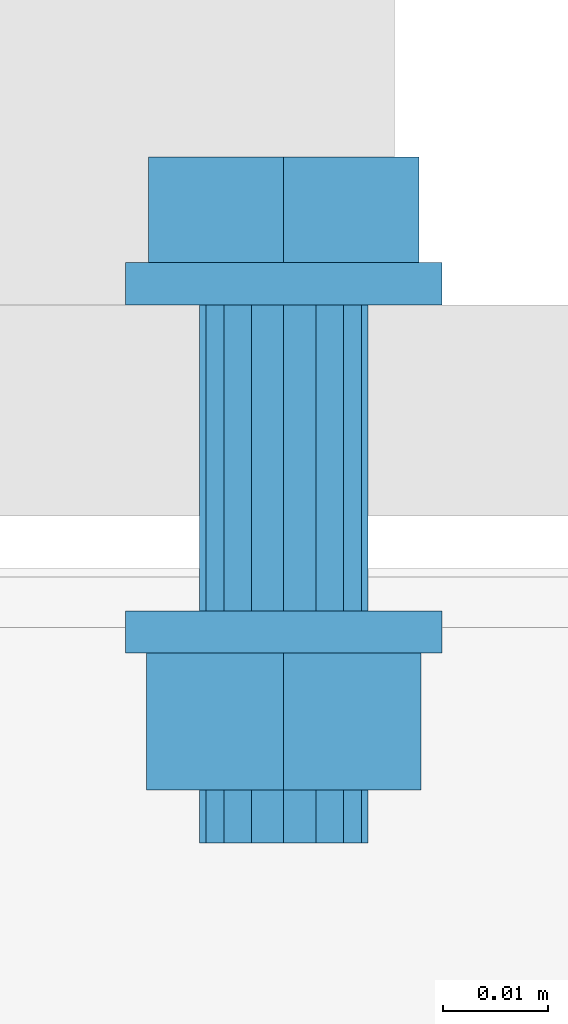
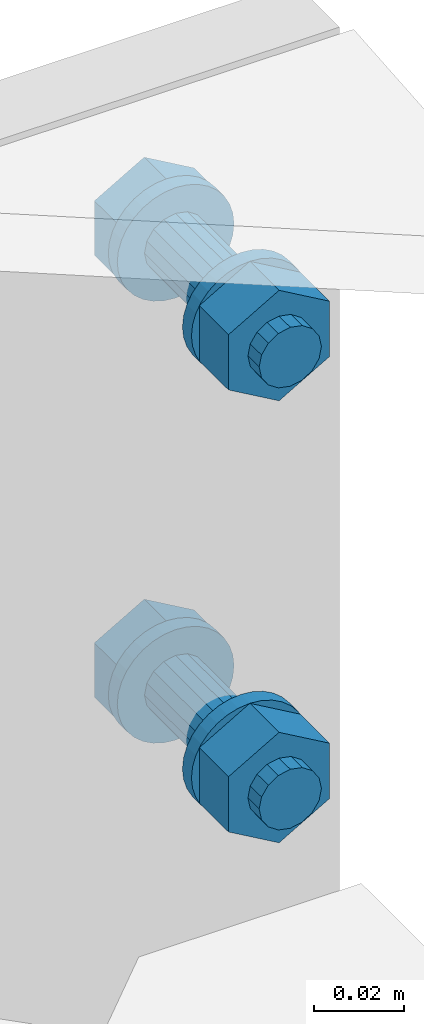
# One storey, part 12 of 21: 2 mechanical fasteners.
"""IFC4X3_ADD2 building model written with IfcOpenShell, lengths in millimetres."""

from ifc_helpers import new_model, entity, si_unit, converted_unit, derived_unit, direction, frame, origin, place, context, project, spatial, faceted_brep, element, save


model = new_model("IFC4X3_ADD2")

# Units and contexts
model_context = context("Model", 3, precision=0.01, world=origin(), true_north=direction((6.123233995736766e-17, 1.0)))
plan_context = context("Plan", 3, precision=0.01, world=origin(), true_north=direction((6.123233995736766e-17, 1.0)))
ifc_project = project(units=[si_unit("LENGTHUNIT", "METRE", prefix="MILLI"), converted_unit("PLANEANGLEUNIT", "DEGREE", entity("IfcPlaneAngleMeasure", 0.017453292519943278), si_unit("PLANEANGLEUNIT", "RADIAN"), dimensions=[0, 0, 0, 0, 0, 0, 0]), si_unit("AREAUNIT", "SQUARE_METRE"), si_unit("VOLUMEUNIT", "CUBIC_METRE"), derived_unit("THERMALTRANSMITTANCEUNIT", [(si_unit("MASSUNIT", "GRAM", prefix="KILO"), 1), (si_unit("THERMODYNAMICTEMPERATUREUNIT", "KELVIN"), -1), (si_unit("TIMEUNIT", "SECOND"), -3)]), derived_unit("USERDEFINED", [(si_unit("MASSUNIT", "GRAM", prefix="KILO"), 1), (si_unit("THERMODYNAMICTEMPERATUREUNIT", "KELVIN"), -1), (si_unit("TIMEUNIT", "SECOND"), -2)]), derived_unit("THERMALRESISTANCEUNIT", [(si_unit("MASSUNIT", "GRAM", prefix="KILO"), -1), (si_unit("TIMEUNIT", "SECOND"), 3), (si_unit("THERMODYNAMICTEMPERATUREUNIT", "KELVIN"), 1)]), si_unit("MASSUNIT", "GRAM", prefix="KILO"), derived_unit("MOMENTOFINERTIAUNIT", [(si_unit("LENGTHUNIT", "METRE"), 4)]), derived_unit("LINEARFORCEUNIT", [(si_unit("MASSUNIT", "GRAM", prefix="KILO"), 1), (si_unit("TIMEUNIT", "SECOND"), -2)]), derived_unit("WARPINGCONSTANTUNIT", [(si_unit("LENGTHUNIT", "METRE"), 6)]), si_unit("PRESSUREUNIT", "PASCAL"), derived_unit("MASSDENSITYUNIT", [(si_unit("MASSUNIT", "GRAM", prefix="KILO"), 1), (si_unit("LENGTHUNIT", "METRE"), -3)]), derived_unit("MODULUSOFELASTICITYUNIT", [(si_unit("MASSUNIT", "GRAM", prefix="KILO"), 1), (si_unit("TIMEUNIT", "SECOND"), -2), (si_unit("LENGTHUNIT", "METRE"), -1)]), derived_unit("THERMALEXPANSIONCOEFFICIENTUNIT", [(si_unit("THERMODYNAMICTEMPERATUREUNIT", "KELVIN"), -1)]), derived_unit("VAPORPERMEABILITYUNIT", [(si_unit("LENGTHUNIT", "METRE"), -1), (si_unit("TIMEUNIT", "SECOND"), 1)]), derived_unit("USERDEFINED", [(si_unit("MASSUNIT", "GRAM", prefix="KILO"), 1), (si_unit("TIMEUNIT", "SECOND"), -3), (si_unit("LENGTHUNIT", "METRE"), 3), (si_unit("ELECTRICCURRENTUNIT", "AMPERE"), -2)]), derived_unit("SPECIFICHEATCAPACITYUNIT", [(si_unit("THERMODYNAMICTEMPERATUREUNIT", "KELVIN"), -1), (si_unit("TIMEUNIT", "SECOND"), -2), (si_unit("LENGTHUNIT", "METRE"), 2)]), derived_unit("THERMALCONDUCTANCEUNIT", [(si_unit("MASSUNIT", "GRAM", prefix="KILO"), 1), (si_unit("THERMODYNAMICTEMPERATUREUNIT", "KELVIN"), -1), (si_unit("TIMEUNIT", "SECOND"), -3), (si_unit("LENGTHUNIT", "METRE"), 1)])], contexts=[model_context, plan_context])

# Site, building, storey
site_placement = place(None, origin())
site = spatial("IfcSite", under=ifc_project, at=site_placement, Name="Default", CompositionType="ELEMENT")
building_placement = place(site_placement, origin())
building = spatial("IfcBuilding", under=site, at=building_placement, Name="Complex structure", CompositionType="ELEMENT")
storey_placement = place(building_placement, frame((0.0, 0.0, 3000.0)))
storey = spatial("IfcBuildingStorey", under=building, at=storey_placement, Name="Level 01", CompositionType="ELEMENT", Elevation=3000.0)

# Mechanical fasteners
mechanical_fastener_1_placement = place(storey_placement, frame((0.0, 0.0, -3000.0)))
element("IfcMechanicalFastener", 1, at=mechanical_fastener_1_placement, inside=storey, ObjectType="Bolt#3", NominalDiameter=16.0, NominalLength=55.0, context=model_context, shape_type="Brep", body=[
    faceted_brep([(-9081.026350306, -1182.866703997, 3943.0), (-9081.026350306, -1186.866703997, 3943.0), (-9081.3145711, -1186.866703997, 3940.07364517), (-9081.3145711, -1182.866703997, 3940.07364517), (-9082.168157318, -1186.866703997, 3937.259748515), (-9082.168157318, -1182.866703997, 3937.259748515), (-9083.554306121, -1186.866703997, 3934.666446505), (-9083.554306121, -1182.866703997, 3934.666446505), (-9085.419748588, -1186.866703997, 3932.393398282), (-9085.419748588, -1182.866703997, 3932.393398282), (-9087.692796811, -1186.866703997, 3930.527955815), (-9087.692796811, -1182.866703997, 3930.527955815), (-9090.28609882, -1186.866703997, 3929.141807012), (-9090.28609882, -1182.866703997, 3929.141807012), (-9093.099995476, -1186.866703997, 3928.288220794), (-9093.099995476, -1182.866703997, 3928.288220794), (-9096.026350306, -1186.866703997, 3928.0), (-9096.026350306, -1182.866703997, 3928.0), (-9098.952705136, -1186.866703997, 3928.288220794), (-9098.952705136, -1182.866703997, 3928.288220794), (-9101.766601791, -1186.866703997, 3929.141807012), (-9101.766601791, -1182.866703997, 3929.141807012), (-9104.359903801, -1186.866703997, 3930.527955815), (-9104.359903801, -1182.866703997, 3930.527955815), (-9106.632952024, -1186.866703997, 3932.393398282), (-9106.632952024, -1182.866703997, 3932.393398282), (-9108.49839449, -1186.866703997, 3934.666446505), (-9108.49839449, -1182.866703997, 3934.666446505), (-9109.884543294, -1186.866703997, 3937.259748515), (-9109.884543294, -1182.866703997, 3937.259748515), (-9110.738129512, -1186.866703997, 3940.07364517), (-9110.738129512, -1182.866703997, 3940.07364517), (-9111.026350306, -1186.866703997, 3943.0), (-9111.026350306, -1182.866703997, 3943.0), (-9110.738129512, -1186.866703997, 3945.92635483), (-9110.738129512, -1182.866703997, 3945.92635483), (-9109.884543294, -1186.866703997, 3948.740251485), (-9109.884543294, -1182.866703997, 3948.740251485), (-9108.49839449, -1186.866703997, 3951.333553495), (-9108.49839449, -1182.866703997, 3951.333553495), (-9106.632952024, -1186.866703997, 3953.606601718), (-9106.632952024, -1182.866703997, 3953.606601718), (-9104.359903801, -1186.866703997, 3955.472044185), (-9104.359903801, -1182.866703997, 3955.472044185), (-9101.766601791, -1186.866703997, 3956.858192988), (-9101.766601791, -1182.866703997, 3956.858192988), (-9098.952705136, -1186.866703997, 3957.711779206), (-9098.952705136, -1182.866703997, 3957.711779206), (-9096.026350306, -1186.866703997, 3958.0), (-9096.026350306, -1182.866703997, 3958.0), (-9093.099995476, -1186.866703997, 3957.711779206), (-9093.099995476, -1182.866703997, 3957.711779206), (-9090.28609882, -1186.866703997, 3956.858192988), (-9090.28609882, -1182.866703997, 3956.858192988), (-9087.692796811, -1186.866703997, 3955.472044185), (-9087.692796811, -1182.866703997, 3955.472044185), (-9085.419748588, -1186.866703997, 3953.606601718), (-9085.419748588, -1182.866703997, 3953.606601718), (-9083.554306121, -1186.866703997, 3951.333553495), (-9083.554306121, -1182.866703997, 3951.333553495), (-9082.168157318, -1186.866703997, 3948.740251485), (-9082.168157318, -1182.866703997, 3948.740251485), (-9081.3145711, -1186.866703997, 3945.92635483), (-9081.3145711, -1182.866703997, 3945.92635483)], [[[0, 1, 2, 3]], [[3, 2, 4, 5]], [[5, 4, 6, 7]], [[7, 6, 8, 9]], [[9, 8, 10, 11]], [[11, 10, 12, 13]], [[13, 12, 14, 15]], [[15, 14, 16, 17]], [[17, 16, 18, 19]], [[19, 18, 20, 21]], [[21, 20, 22, 23]], [[23, 22, 24, 25]], [[25, 24, 26, 27]], [[27, 26, 28, 29]], [[29, 28, 30, 31]], [[31, 30, 32, 33]], [[33, 32, 34, 35]], [[35, 34, 36, 37]], [[37, 36, 38, 39]], [[39, 38, 40, 41]], [[41, 40, 42, 43]], [[43, 42, 44, 45]], [[45, 44, 46, 47]], [[47, 46, 48, 49]], [[49, 48, 50, 51]], [[51, 50, 52, 53]], [[53, 52, 54, 55]], [[55, 54, 56, 57]], [[57, 56, 58, 59]], [[59, 58, 60, 61]], [[61, 60, 62, 63]], [[63, 62, 1, 0]], [[0, 3, 5, 7, 9, 11, 13, 15, 17, 19, 21, 23, 25, 27, 29, 31, 33, 35, 37, 39, 41, 43, 45, 47, 49, 51, 53, 55, 57, 59, 61, 63]], [[1, 62, 60, 58, 56, 54, 52, 50, 48, 46, 44, 42, 40, 38, 36, 34, 32, 30, 28, 26, 24, 22, 20, 18, 16, 14, 12, 10, 8, 6, 4, 2]]]),
    faceted_brep([(-9108.826205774, -1182.866703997, 3935.61), (-9108.826205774, -1172.866703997, 3935.61), (-9096.026350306, -1172.866703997, 3928.22), (-9096.026350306, -1182.866703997, 3928.22), (-9083.226494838, -1172.866703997, 3935.61), (-9083.226494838, -1182.866703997, 3935.61), (-9083.226494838, -1172.866703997, 3950.39), (-9083.226494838, -1182.866703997, 3950.39), (-9096.026350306, -1172.866703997, 3957.78), (-9096.026350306, -1182.866703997, 3957.78), (-9108.826205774, -1172.866703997, 3950.39), (-9108.826205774, -1182.866703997, 3950.39)], [[[0, 1, 2, 3]], [[3, 2, 4, 5]], [[5, 4, 6, 7]], [[7, 6, 8, 9]], [[9, 8, 10, 11]], [[11, 10, 1, 0]], [[4, 2, 1, 10, 8, 6]], [[0, 3, 5, 7, 9, 11]]]),
    faceted_brep([(-9088.026350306, -1186.866703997, 3943.0), (-9088.026350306, -1215.866703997, 3943.0), (-9088.635314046, -1215.866703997, 3939.938532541), (-9088.635314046, -1186.866703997, 3939.938532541), (-9090.369496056, -1215.866703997, 3937.343145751), (-9090.369496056, -1186.866703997, 3937.343145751), (-9092.964882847, -1215.866703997, 3935.60896374), (-9092.964882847, -1186.866703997, 3935.60896374), (-9096.026350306, -1215.866703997, 3935.0), (-9096.026350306, -1186.866703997, 3935.0), (-9099.087817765, -1215.866703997, 3935.60896374), (-9099.087817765, -1186.866703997, 3935.60896374), (-9101.683204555, -1215.866703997, 3937.343145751), (-9101.683204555, -1186.866703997, 3937.343145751), (-9103.417386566, -1215.866703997, 3939.938532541), (-9103.417386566, -1186.866703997, 3939.938532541), (-9104.026350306, -1215.866703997, 3943.0), (-9104.026350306, -1186.866703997, 3943.0), (-9103.417386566, -1215.866703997, 3946.061467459), (-9103.417386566, -1186.866703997, 3946.061467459), (-9101.683204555, -1215.866703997, 3948.656854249), (-9101.683204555, -1186.866703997, 3948.656854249), (-9099.087817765, -1215.866703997, 3950.39103626), (-9099.087817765, -1186.866703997, 3950.39103626), (-9096.026350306, -1215.866703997, 3951.0), (-9096.026350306, -1186.866703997, 3951.0), (-9092.964882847, -1215.866703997, 3950.39103626), (-9092.964882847, -1186.866703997, 3950.39103626), (-9090.369496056, -1215.866703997, 3948.656854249), (-9090.369496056, -1186.866703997, 3948.656854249), (-9088.635314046, -1215.866703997, 3946.061467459), (-9088.635314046, -1186.866703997, 3946.061467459)], [[[0, 1, 2, 3]], [[3, 2, 4, 5]], [[5, 4, 6, 7]], [[7, 6, 8, 9]], [[9, 8, 10, 11]], [[11, 10, 12, 13]], [[13, 12, 14, 15]], [[15, 14, 16, 17]], [[17, 16, 18, 19]], [[19, 18, 20, 21]], [[21, 20, 22, 23]], [[23, 22, 24, 25]], [[25, 24, 26, 27]], [[27, 26, 28, 29]], [[29, 28, 30, 31]], [[31, 30, 1, 0]], [[0, 3, 5, 7, 9, 11, 13, 15, 17, 19, 21, 23, 25, 27, 29, 31]], [[1, 30, 28, 26, 24, 22, 20, 18, 16, 14, 12, 10, 8, 6, 4, 2]]]),
    faceted_brep([(-9081.026350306, -1215.866703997, 3943.0), (-9081.026350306, -1219.866703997, 3943.0), (-9081.3145711, -1219.866703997, 3940.07364517), (-9081.3145711, -1215.866703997, 3940.07364517), (-9082.168157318, -1219.866703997, 3937.259748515), (-9082.168157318, -1215.866703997, 3937.259748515), (-9083.554306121, -1219.866703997, 3934.666446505), (-9083.554306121, -1215.866703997, 3934.666446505), (-9085.419748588, -1219.866703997, 3932.393398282), (-9085.419748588, -1215.866703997, 3932.393398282), (-9087.692796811, -1219.866703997, 3930.527955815), (-9087.692796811, -1215.866703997, 3930.527955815), (-9090.28609882, -1219.866703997, 3929.141807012), (-9090.28609882, -1215.866703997, 3929.141807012), (-9093.099995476, -1219.866703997, 3928.288220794), (-9093.099995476, -1215.866703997, 3928.288220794), (-9096.026350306, -1219.866703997, 3928.0), (-9096.026350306, -1215.866703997, 3928.0), (-9098.952705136, -1219.866703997, 3928.288220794), (-9098.952705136, -1215.866703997, 3928.288220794), (-9101.766601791, -1219.866703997, 3929.141807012), (-9101.766601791, -1215.866703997, 3929.141807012), (-9104.359903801, -1219.866703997, 3930.527955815), (-9104.359903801, -1215.866703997, 3930.527955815), (-9106.632952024, -1219.866703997, 3932.393398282), (-9106.632952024, -1215.866703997, 3932.393398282), (-9108.49839449, -1219.866703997, 3934.666446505), (-9108.49839449, -1215.866703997, 3934.666446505), (-9109.884543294, -1219.866703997, 3937.259748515), (-9109.884543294, -1215.866703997, 3937.259748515), (-9110.738129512, -1219.866703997, 3940.07364517), (-9110.738129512, -1215.866703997, 3940.07364517), (-9111.026350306, -1219.866703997, 3943.0), (-9111.026350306, -1215.866703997, 3943.0), (-9110.738129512, -1219.866703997, 3945.92635483), (-9110.738129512, -1215.866703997, 3945.92635483), (-9109.884543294, -1219.866703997, 3948.740251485), (-9109.884543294, -1215.866703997, 3948.740251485), (-9108.49839449, -1219.866703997, 3951.333553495), (-9108.49839449, -1215.866703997, 3951.333553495), (-9106.632952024, -1219.866703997, 3953.606601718), (-9106.632952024, -1215.866703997, 3953.606601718), (-9104.359903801, -1219.866703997, 3955.472044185), (-9104.359903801, -1215.866703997, 3955.472044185), (-9101.766601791, -1219.866703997, 3956.858192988), (-9101.766601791, -1215.866703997, 3956.858192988), (-9098.952705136, -1219.866703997, 3957.711779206), (-9098.952705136, -1215.866703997, 3957.711779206), (-9096.026350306, -1219.866703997, 3958.0), (-9096.026350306, -1215.866703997, 3958.0), (-9093.099995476, -1219.866703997, 3957.711779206), (-9093.099995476, -1215.866703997, 3957.711779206), (-9090.28609882, -1219.866703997, 3956.858192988), (-9090.28609882, -1215.866703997, 3956.858192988), (-9087.692796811, -1219.866703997, 3955.472044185), (-9087.692796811, -1215.866703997, 3955.472044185), (-9085.419748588, -1219.866703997, 3953.606601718), (-9085.419748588, -1215.866703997, 3953.606601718), (-9083.554306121, -1219.866703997, 3951.333553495), (-9083.554306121, -1215.866703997, 3951.333553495), (-9082.168157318, -1219.866703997, 3948.740251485), (-9082.168157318, -1215.866703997, 3948.740251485), (-9081.3145711, -1219.866703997, 3945.92635483), (-9081.3145711, -1215.866703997, 3945.92635483)], [[[0, 1, 2, 3]], [[3, 2, 4, 5]], [[5, 4, 6, 7]], [[7, 6, 8, 9]], [[9, 8, 10, 11]], [[11, 10, 12, 13]], [[13, 12, 14, 15]], [[15, 14, 16, 17]], [[17, 16, 18, 19]], [[19, 18, 20, 21]], [[21, 20, 22, 23]], [[23, 22, 24, 25]], [[25, 24, 26, 27]], [[27, 26, 28, 29]], [[29, 28, 30, 31]], [[31, 30, 32, 33]], [[33, 32, 34, 35]], [[35, 34, 36, 37]], [[37, 36, 38, 39]], [[39, 38, 40, 41]], [[41, 40, 42, 43]], [[43, 42, 44, 45]], [[45, 44, 46, 47]], [[47, 46, 48, 49]], [[49, 48, 50, 51]], [[51, 50, 52, 53]], [[53, 52, 54, 55]], [[55, 54, 56, 57]], [[57, 56, 58, 59]], [[59, 58, 60, 61]], [[61, 60, 62, 63]], [[63, 62, 1, 0]], [[0, 3, 5, 7, 9, 11, 13, 15, 17, 19, 21, 23, 25, 27, 29, 31, 33, 35, 37, 39, 41, 43, 45, 47, 49, 51, 53, 55, 57, 59, 61, 63]], [[1, 62, 60, 58, 56, 54, 52, 50, 48, 46, 44, 42, 40, 38, 36, 34, 32, 30, 28, 26, 24, 22, 20, 18, 16, 14, 12, 10, 8, 6, 4, 2]]]),
    faceted_brep([(-9109.016731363, -1232.866703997, 3935.5), (-9109.016731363, -1219.866703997, 3935.5), (-9096.026350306, -1219.866703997, 3928.0), (-9096.026350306, -1232.866703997, 3928.0), (-9083.035969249, -1219.866703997, 3935.5), (-9083.035969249, -1232.866703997, 3935.5), (-9083.035969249, -1219.866703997, 3950.5), (-9083.035969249, -1232.866703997, 3950.5), (-9096.026350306, -1219.866703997, 3958.0), (-9096.026350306, -1232.866703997, 3958.0), (-9109.016731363, -1219.866703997, 3950.5), (-9109.016731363, -1232.866703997, 3950.5)], [[[0, 1, 2, 3]], [[3, 2, 4, 5]], [[5, 4, 6, 7]], [[7, 6, 8, 9]], [[9, 8, 10, 11]], [[11, 10, 1, 0]], [[4, 2, 1, 10, 8, 6]], [[0, 3, 5, 7, 9, 11]]]),
    faceted_brep([(-9088.026350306, -1232.866703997, 3943.0), (-9088.026350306, -1237.866703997, 3943.0), (-9088.635314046, -1237.866703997, 3939.938532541), (-9088.635314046, -1232.866703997, 3939.938532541), (-9090.369496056, -1237.866703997, 3937.343145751), (-9090.369496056, -1232.866703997, 3937.343145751), (-9092.964882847, -1237.866703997, 3935.60896374), (-9092.964882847, -1232.866703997, 3935.60896374), (-9096.026350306, -1237.866703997, 3935.0), (-9096.026350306, -1232.866703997, 3935.0), (-9099.087817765, -1237.866703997, 3935.60896374), (-9099.087817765, -1232.866703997, 3935.60896374), (-9101.683204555, -1237.866703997, 3937.343145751), (-9101.683204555, -1232.866703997, 3937.343145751), (-9103.417386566, -1237.866703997, 3939.938532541), (-9103.417386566, -1232.866703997, 3939.938532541), (-9104.026350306, -1237.866703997, 3943.0), (-9104.026350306, -1232.866703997, 3943.0), (-9103.417386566, -1237.866703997, 3946.061467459), (-9103.417386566, -1232.866703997, 3946.061467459), (-9101.683204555, -1237.866703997, 3948.656854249), (-9101.683204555, -1232.866703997, 3948.656854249), (-9099.087817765, -1237.866703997, 3950.39103626), (-9099.087817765, -1232.866703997, 3950.39103626), (-9096.026350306, -1237.866703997, 3951.0), (-9096.026350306, -1232.866703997, 3951.0), (-9092.964882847, -1237.866703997, 3950.39103626), (-9092.964882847, -1232.866703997, 3950.39103626), (-9090.369496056, -1237.866703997, 3948.656854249), (-9090.369496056, -1232.866703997, 3948.656854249), (-9088.635314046, -1237.866703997, 3946.061467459), (-9088.635314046, -1232.866703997, 3946.061467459)], [[[0, 1, 2, 3]], [[3, 2, 4, 5]], [[5, 4, 6, 7]], [[7, 6, 8, 9]], [[9, 8, 10, 11]], [[11, 10, 12, 13]], [[13, 12, 14, 15]], [[15, 14, 16, 17]], [[17, 16, 18, 19]], [[19, 18, 20, 21]], [[21, 20, 22, 23]], [[23, 22, 24, 25]], [[25, 24, 26, 27]], [[27, 26, 28, 29]], [[29, 28, 30, 31]], [[31, 30, 1, 0]], [[0, 3, 5, 7, 9, 11, 13, 15, 17, 19, 21, 23, 25, 27, 29, 31]], [[1, 30, 28, 26, 24, 22, 20, 18, 16, 14, 12, 10, 8, 6, 4, 2]]]),
])
mechanical_fastener_2_placement = place(storey_placement, frame((0.0, 0.0, -3000.0)))
element("IfcMechanicalFastener", 2, at=mechanical_fastener_2_placement, inside=storey, ObjectType="Bolt#4", NominalDiameter=16.0, NominalLength=55.0, context=model_context, shape_type="Brep", body=[
    faceted_brep([(-9081.026350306, -1182.866703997, 3823.0), (-9081.026350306, -1186.866703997, 3823.0), (-9081.3145711, -1186.866703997, 3820.07364517), (-9081.3145711, -1182.866703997, 3820.07364517), (-9082.168157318, -1186.866703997, 3817.259748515), (-9082.168157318, -1182.866703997, 3817.259748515), (-9083.554306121, -1186.866703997, 3814.666446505), (-9083.554306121, -1182.866703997, 3814.666446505), (-9085.419748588, -1186.866703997, 3812.393398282), (-9085.419748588, -1182.866703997, 3812.393398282), (-9087.692796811, -1186.866703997, 3810.527955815), (-9087.692796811, -1182.866703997, 3810.527955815), (-9090.28609882, -1186.866703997, 3809.141807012), (-9090.28609882, -1182.866703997, 3809.141807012), (-9093.099995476, -1186.866703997, 3808.288220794), (-9093.099995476, -1182.866703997, 3808.288220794), (-9096.026350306, -1186.866703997, 3808.0), (-9096.026350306, -1182.866703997, 3808.0), (-9098.952705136, -1186.866703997, 3808.288220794), (-9098.952705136, -1182.866703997, 3808.288220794), (-9101.766601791, -1186.866703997, 3809.141807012), (-9101.766601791, -1182.866703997, 3809.141807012), (-9104.359903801, -1186.866703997, 3810.527955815), (-9104.359903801, -1182.866703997, 3810.527955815), (-9106.632952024, -1186.866703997, 3812.393398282), (-9106.632952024, -1182.866703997, 3812.393398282), (-9108.49839449, -1186.866703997, 3814.666446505), (-9108.49839449, -1182.866703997, 3814.666446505), (-9109.884543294, -1186.866703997, 3817.259748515), (-9109.884543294, -1182.866703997, 3817.259748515), (-9110.738129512, -1186.866703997, 3820.07364517), (-9110.738129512, -1182.866703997, 3820.07364517), (-9111.026350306, -1186.866703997, 3823.0), (-9111.026350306, -1182.866703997, 3823.0), (-9110.738129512, -1186.866703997, 3825.92635483), (-9110.738129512, -1182.866703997, 3825.92635483), (-9109.884543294, -1186.866703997, 3828.740251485), (-9109.884543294, -1182.866703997, 3828.740251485), (-9108.49839449, -1186.866703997, 3831.333553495), (-9108.49839449, -1182.866703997, 3831.333553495), (-9106.632952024, -1186.866703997, 3833.606601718), (-9106.632952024, -1182.866703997, 3833.606601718), (-9104.359903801, -1186.866703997, 3835.472044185), (-9104.359903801, -1182.866703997, 3835.472044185), (-9101.766601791, -1186.866703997, 3836.858192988), (-9101.766601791, -1182.866703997, 3836.858192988), (-9098.952705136, -1186.866703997, 3837.711779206), (-9098.952705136, -1182.866703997, 3837.711779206), (-9096.026350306, -1186.866703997, 3838.0), (-9096.026350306, -1182.866703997, 3838.0), (-9093.099995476, -1186.866703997, 3837.711779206), (-9093.099995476, -1182.866703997, 3837.711779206), (-9090.28609882, -1186.866703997, 3836.858192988), (-9090.28609882, -1182.866703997, 3836.858192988), (-9087.692796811, -1186.866703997, 3835.472044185), (-9087.692796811, -1182.866703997, 3835.472044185), (-9085.419748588, -1186.866703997, 3833.606601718), (-9085.419748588, -1182.866703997, 3833.606601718), (-9083.554306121, -1186.866703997, 3831.333553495), (-9083.554306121, -1182.866703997, 3831.333553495), (-9082.168157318, -1186.866703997, 3828.740251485), (-9082.168157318, -1182.866703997, 3828.740251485), (-9081.3145711, -1186.866703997, 3825.92635483), (-9081.3145711, -1182.866703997, 3825.92635483)], [[[0, 1, 2, 3]], [[3, 2, 4, 5]], [[5, 4, 6, 7]], [[7, 6, 8, 9]], [[9, 8, 10, 11]], [[11, 10, 12, 13]], [[13, 12, 14, 15]], [[15, 14, 16, 17]], [[17, 16, 18, 19]], [[19, 18, 20, 21]], [[21, 20, 22, 23]], [[23, 22, 24, 25]], [[25, 24, 26, 27]], [[27, 26, 28, 29]], [[29, 28, 30, 31]], [[31, 30, 32, 33]], [[33, 32, 34, 35]], [[35, 34, 36, 37]], [[37, 36, 38, 39]], [[39, 38, 40, 41]], [[41, 40, 42, 43]], [[43, 42, 44, 45]], [[45, 44, 46, 47]], [[47, 46, 48, 49]], [[49, 48, 50, 51]], [[51, 50, 52, 53]], [[53, 52, 54, 55]], [[55, 54, 56, 57]], [[57, 56, 58, 59]], [[59, 58, 60, 61]], [[61, 60, 62, 63]], [[63, 62, 1, 0]], [[0, 3, 5, 7, 9, 11, 13, 15, 17, 19, 21, 23, 25, 27, 29, 31, 33, 35, 37, 39, 41, 43, 45, 47, 49, 51, 53, 55, 57, 59, 61, 63]], [[1, 62, 60, 58, 56, 54, 52, 50, 48, 46, 44, 42, 40, 38, 36, 34, 32, 30, 28, 26, 24, 22, 20, 18, 16, 14, 12, 10, 8, 6, 4, 2]]]),
    faceted_brep([(-9108.826205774, -1182.866703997, 3815.61), (-9108.826205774, -1172.866703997, 3815.61), (-9096.026350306, -1172.866703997, 3808.22), (-9096.026350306, -1182.866703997, 3808.22), (-9083.226494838, -1172.866703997, 3815.61), (-9083.226494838, -1182.866703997, 3815.61), (-9083.226494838, -1172.866703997, 3830.39), (-9083.226494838, -1182.866703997, 3830.39), (-9096.026350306, -1172.866703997, 3837.78), (-9096.026350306, -1182.866703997, 3837.78), (-9108.826205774, -1172.866703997, 3830.39), (-9108.826205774, -1182.866703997, 3830.39)], [[[0, 1, 2, 3]], [[3, 2, 4, 5]], [[5, 4, 6, 7]], [[7, 6, 8, 9]], [[9, 8, 10, 11]], [[11, 10, 1, 0]], [[4, 2, 1, 10, 8, 6]], [[0, 3, 5, 7, 9, 11]]]),
    faceted_brep([(-9088.026350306, -1186.866703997, 3823.0), (-9088.026350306, -1215.866703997, 3823.0), (-9088.635314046, -1215.866703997, 3819.938532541), (-9088.635314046, -1186.866703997, 3819.938532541), (-9090.369496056, -1215.866703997, 3817.343145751), (-9090.369496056, -1186.866703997, 3817.343145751), (-9092.964882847, -1215.866703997, 3815.60896374), (-9092.964882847, -1186.866703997, 3815.60896374), (-9096.026350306, -1215.866703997, 3815.0), (-9096.026350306, -1186.866703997, 3815.0), (-9099.087817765, -1215.866703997, 3815.60896374), (-9099.087817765, -1186.866703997, 3815.60896374), (-9101.683204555, -1215.866703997, 3817.343145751), (-9101.683204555, -1186.866703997, 3817.343145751), (-9103.417386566, -1215.866703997, 3819.938532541), (-9103.417386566, -1186.866703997, 3819.938532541), (-9104.026350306, -1215.866703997, 3823.0), (-9104.026350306, -1186.866703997, 3823.0), (-9103.417386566, -1215.866703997, 3826.061467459), (-9103.417386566, -1186.866703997, 3826.061467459), (-9101.683204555, -1215.866703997, 3828.656854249), (-9101.683204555, -1186.866703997, 3828.656854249), (-9099.087817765, -1215.866703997, 3830.39103626), (-9099.087817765, -1186.866703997, 3830.39103626), (-9096.026350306, -1215.866703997, 3831.0), (-9096.026350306, -1186.866703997, 3831.0), (-9092.964882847, -1215.866703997, 3830.39103626), (-9092.964882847, -1186.866703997, 3830.39103626), (-9090.369496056, -1215.866703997, 3828.656854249), (-9090.369496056, -1186.866703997, 3828.656854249), (-9088.635314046, -1215.866703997, 3826.061467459), (-9088.635314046, -1186.866703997, 3826.061467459)], [[[0, 1, 2, 3]], [[3, 2, 4, 5]], [[5, 4, 6, 7]], [[7, 6, 8, 9]], [[9, 8, 10, 11]], [[11, 10, 12, 13]], [[13, 12, 14, 15]], [[15, 14, 16, 17]], [[17, 16, 18, 19]], [[19, 18, 20, 21]], [[21, 20, 22, 23]], [[23, 22, 24, 25]], [[25, 24, 26, 27]], [[27, 26, 28, 29]], [[29, 28, 30, 31]], [[31, 30, 1, 0]], [[0, 3, 5, 7, 9, 11, 13, 15, 17, 19, 21, 23, 25, 27, 29, 31]], [[1, 30, 28, 26, 24, 22, 20, 18, 16, 14, 12, 10, 8, 6, 4, 2]]]),
    faceted_brep([(-9081.026350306, -1215.866703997, 3823.0), (-9081.026350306, -1219.866703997, 3823.0), (-9081.3145711, -1219.866703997, 3820.07364517), (-9081.3145711, -1215.866703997, 3820.07364517), (-9082.168157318, -1219.866703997, 3817.259748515), (-9082.168157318, -1215.866703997, 3817.259748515), (-9083.554306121, -1219.866703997, 3814.666446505), (-9083.554306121, -1215.866703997, 3814.666446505), (-9085.419748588, -1219.866703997, 3812.393398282), (-9085.419748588, -1215.866703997, 3812.393398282), (-9087.692796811, -1219.866703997, 3810.527955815), (-9087.692796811, -1215.866703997, 3810.527955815), (-9090.28609882, -1219.866703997, 3809.141807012), (-9090.28609882, -1215.866703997, 3809.141807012), (-9093.099995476, -1219.866703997, 3808.288220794), (-9093.099995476, -1215.866703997, 3808.288220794), (-9096.026350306, -1219.866703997, 3808.0), (-9096.026350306, -1215.866703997, 3808.0), (-9098.952705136, -1219.866703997, 3808.288220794), (-9098.952705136, -1215.866703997, 3808.288220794), (-9101.766601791, -1219.866703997, 3809.141807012), (-9101.766601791, -1215.866703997, 3809.141807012), (-9104.359903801, -1219.866703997, 3810.527955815), (-9104.359903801, -1215.866703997, 3810.527955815), (-9106.632952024, -1219.866703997, 3812.393398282), (-9106.632952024, -1215.866703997, 3812.393398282), (-9108.49839449, -1219.866703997, 3814.666446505), (-9108.49839449, -1215.866703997, 3814.666446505), (-9109.884543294, -1219.866703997, 3817.259748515), (-9109.884543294, -1215.866703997, 3817.259748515), (-9110.738129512, -1219.866703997, 3820.07364517), (-9110.738129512, -1215.866703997, 3820.07364517), (-9111.026350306, -1219.866703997, 3823.0), (-9111.026350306, -1215.866703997, 3823.0), (-9110.738129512, -1219.866703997, 3825.92635483), (-9110.738129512, -1215.866703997, 3825.92635483), (-9109.884543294, -1219.866703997, 3828.740251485), (-9109.884543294, -1215.866703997, 3828.740251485), (-9108.49839449, -1219.866703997, 3831.333553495), (-9108.49839449, -1215.866703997, 3831.333553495), (-9106.632952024, -1219.866703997, 3833.606601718), (-9106.632952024, -1215.866703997, 3833.606601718), (-9104.359903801, -1219.866703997, 3835.472044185), (-9104.359903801, -1215.866703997, 3835.472044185), (-9101.766601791, -1219.866703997, 3836.858192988), (-9101.766601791, -1215.866703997, 3836.858192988), (-9098.952705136, -1219.866703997, 3837.711779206), (-9098.952705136, -1215.866703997, 3837.711779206), (-9096.026350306, -1219.866703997, 3838.0), (-9096.026350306, -1215.866703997, 3838.0), (-9093.099995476, -1219.866703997, 3837.711779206), (-9093.099995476, -1215.866703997, 3837.711779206), (-9090.28609882, -1219.866703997, 3836.858192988), (-9090.28609882, -1215.866703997, 3836.858192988), (-9087.692796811, -1219.866703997, 3835.472044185), (-9087.692796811, -1215.866703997, 3835.472044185), (-9085.419748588, -1219.866703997, 3833.606601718), (-9085.419748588, -1215.866703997, 3833.606601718), (-9083.554306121, -1219.866703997, 3831.333553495), (-9083.554306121, -1215.866703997, 3831.333553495), (-9082.168157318, -1219.866703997, 3828.740251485), (-9082.168157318, -1215.866703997, 3828.740251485), (-9081.3145711, -1219.866703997, 3825.92635483), (-9081.3145711, -1215.866703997, 3825.92635483)], [[[0, 1, 2, 3]], [[3, 2, 4, 5]], [[5, 4, 6, 7]], [[7, 6, 8, 9]], [[9, 8, 10, 11]], [[11, 10, 12, 13]], [[13, 12, 14, 15]], [[15, 14, 16, 17]], [[17, 16, 18, 19]], [[19, 18, 20, 21]], [[21, 20, 22, 23]], [[23, 22, 24, 25]], [[25, 24, 26, 27]], [[27, 26, 28, 29]], [[29, 28, 30, 31]], [[31, 30, 32, 33]], [[33, 32, 34, 35]], [[35, 34, 36, 37]], [[37, 36, 38, 39]], [[39, 38, 40, 41]], [[41, 40, 42, 43]], [[43, 42, 44, 45]], [[45, 44, 46, 47]], [[47, 46, 48, 49]], [[49, 48, 50, 51]], [[51, 50, 52, 53]], [[53, 52, 54, 55]], [[55, 54, 56, 57]], [[57, 56, 58, 59]], [[59, 58, 60, 61]], [[61, 60, 62, 63]], [[63, 62, 1, 0]], [[0, 3, 5, 7, 9, 11, 13, 15, 17, 19, 21, 23, 25, 27, 29, 31, 33, 35, 37, 39, 41, 43, 45, 47, 49, 51, 53, 55, 57, 59, 61, 63]], [[1, 62, 60, 58, 56, 54, 52, 50, 48, 46, 44, 42, 40, 38, 36, 34, 32, 30, 28, 26, 24, 22, 20, 18, 16, 14, 12, 10, 8, 6, 4, 2]]]),
    faceted_brep([(-9109.016731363, -1232.866703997, 3815.5), (-9109.016731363, -1219.866703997, 3815.5), (-9096.026350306, -1219.866703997, 3808.0), (-9096.026350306, -1232.866703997, 3808.0), (-9083.035969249, -1219.866703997, 3815.5), (-9083.035969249, -1232.866703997, 3815.5), (-9083.035969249, -1219.866703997, 3830.5), (-9083.035969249, -1232.866703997, 3830.5), (-9096.026350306, -1219.866703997, 3838.0), (-9096.026350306, -1232.866703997, 3838.0), (-9109.016731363, -1219.866703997, 3830.5), (-9109.016731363, -1232.866703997, 3830.5)], [[[0, 1, 2, 3]], [[3, 2, 4, 5]], [[5, 4, 6, 7]], [[7, 6, 8, 9]], [[9, 8, 10, 11]], [[11, 10, 1, 0]], [[4, 2, 1, 10, 8, 6]], [[0, 3, 5, 7, 9, 11]]]),
    faceted_brep([(-9088.026350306, -1232.866703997, 3823.0), (-9088.026350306, -1237.866703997, 3823.0), (-9088.635314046, -1237.866703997, 3819.938532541), (-9088.635314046, -1232.866703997, 3819.938532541), (-9090.369496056, -1237.866703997, 3817.343145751), (-9090.369496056, -1232.866703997, 3817.343145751), (-9092.964882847, -1237.866703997, 3815.60896374), (-9092.964882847, -1232.866703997, 3815.60896374), (-9096.026350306, -1237.866703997, 3815.0), (-9096.026350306, -1232.866703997, 3815.0), (-9099.087817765, -1237.866703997, 3815.60896374), (-9099.087817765, -1232.866703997, 3815.60896374), (-9101.683204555, -1237.866703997, 3817.343145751), (-9101.683204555, -1232.866703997, 3817.343145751), (-9103.417386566, -1237.866703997, 3819.938532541), (-9103.417386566, -1232.866703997, 3819.938532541), (-9104.026350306, -1237.866703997, 3823.0), (-9104.026350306, -1232.866703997, 3823.0), (-9103.417386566, -1237.866703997, 3826.061467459), (-9103.417386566, -1232.866703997, 3826.061467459), (-9101.683204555, -1237.866703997, 3828.656854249), (-9101.683204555, -1232.866703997, 3828.656854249), (-9099.087817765, -1237.866703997, 3830.39103626), (-9099.087817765, -1232.866703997, 3830.39103626), (-9096.026350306, -1237.866703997, 3831.0), (-9096.026350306, -1232.866703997, 3831.0), (-9092.964882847, -1237.866703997, 3830.39103626), (-9092.964882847, -1232.866703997, 3830.39103626), (-9090.369496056, -1237.866703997, 3828.656854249), (-9090.369496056, -1232.866703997, 3828.656854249), (-9088.635314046, -1237.866703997, 3826.061467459), (-9088.635314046, -1232.866703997, 3826.061467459)], [[[0, 1, 2, 3]], [[3, 2, 4, 5]], [[5, 4, 6, 7]], [[7, 6, 8, 9]], [[9, 8, 10, 11]], [[11, 10, 12, 13]], [[13, 12, 14, 15]], [[15, 14, 16, 17]], [[17, 16, 18, 19]], [[19, 18, 20, 21]], [[21, 20, 22, 23]], [[23, 22, 24, 25]], [[25, 24, 26, 27]], [[27, 26, 28, 29]], [[29, 28, 30, 31]], [[31, 30, 1, 0]], [[0, 3, 5, 7, 9, 11, 13, 15, 17, 19, 21, 23, 25, 27, 29, 31]], [[1, 30, 28, 26, 24, 22, 20, 18, 16, 14, 12, 10, 8, 6, 4, 2]]]),
])

save(model, "model.ifc")
